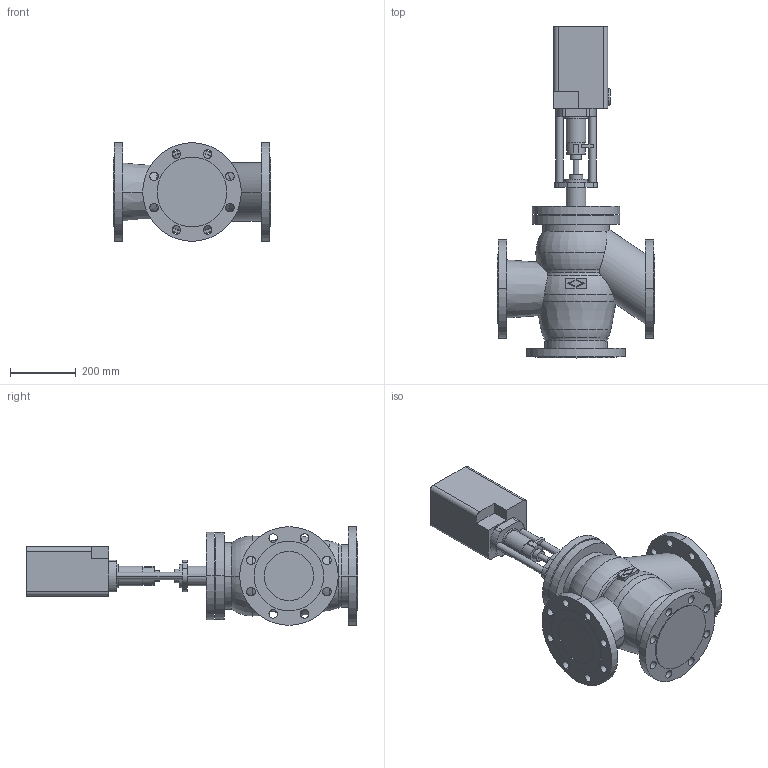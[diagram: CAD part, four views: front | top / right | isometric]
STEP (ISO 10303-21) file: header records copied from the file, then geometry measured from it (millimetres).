
FILE_DESCRIPTION(('OneSpaceDesigner STEP Export'),'2;1');
FILE_NAME('c000002395.stp','2006-09-19T11:58:46',(''),(''),'OneSpace Designer STEP processor for AP214 (Solid Model)','OneSpace Designer 13.20A 18-Aug-2005 (C) CoCreate Software GmbH','');
FILE_SCHEMA(('AUTOMOTIVE_DESIGN { 1 0 10303 214 1 1 1 1 }'));
Length unit declared in the file: millimetre
Products named in the file (2): 1; 2
Bounding box: 480 x 1010 x 300 mm (x, y, z)
Volume: 36145487.7 mm3; surface area: 1283174.5 mm2
Topology: 2 solids, 2 shells, 214 faces, 536 edges, 352 vertices
Faces by surface type: cylinder 112, plane 80, torus 18, cone 4
Entity records: 5991 total; most frequent: CARTESIAN_POINT 1206, ORIENTED_EDGE 1072, DIRECTION 863, EDGE_CURVE 536, VERTEX_POINT 352, AXIS2_PLACEMENT_3D 313, EDGE_LOOP 288, VECTOR 237
